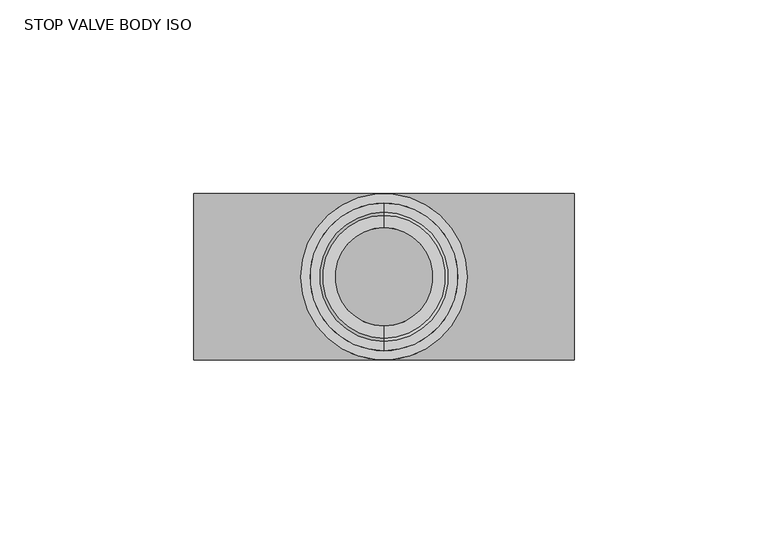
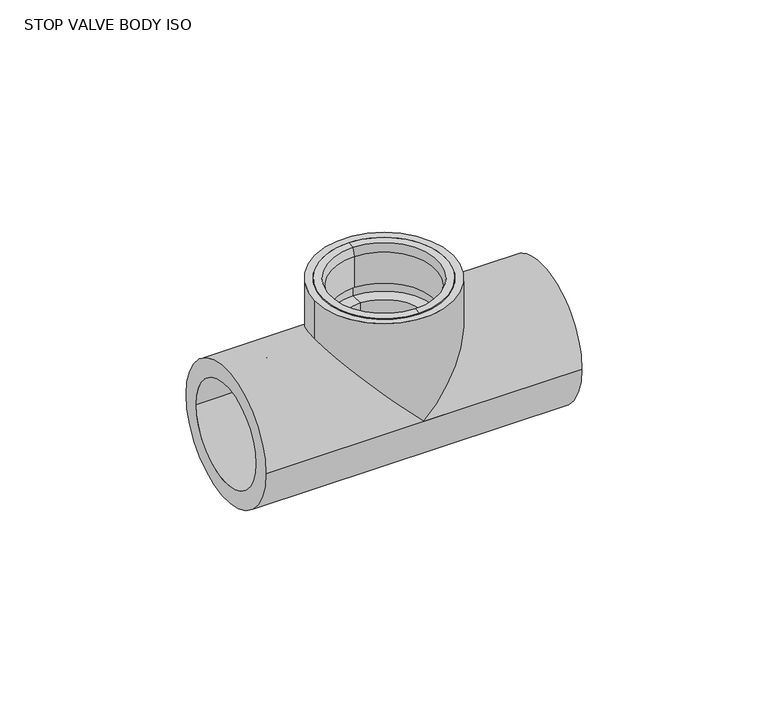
"""IFC4 building model written with IfcOpenShell, lengths in millimetres: valve geometry, Aquatherm - Stop Valve Body ISO : STOP VALVE BODY ISO."""

from ifc_helpers import new_model, si_unit, frame, origin, origin_with_axes, place, context, project, spatial, polyline, circle_curve, ellipse_curve, source, transform, mapped, element, save
from ifc_brep_helpers import plane_surface, cylinder_surface, revolved_surface, advanced_brep


def stop_valve_body_iso_d4252a7b(model_context):
    return source(origin(), model_context, "Body", "AdvancedBrep", [
        advanced_brep(
        [(0.0, -15.875, 21.336), (0.0, 15.875, 21.336), (0.0, 15.875, 31.4563125), (0.0, -15.875, 31.4563125), (0.0, -16.66875, 21.336), (0.0, 16.66875, 21.336), (0.0, -16.66875, 18.161), (0.0, 16.66875, 18.161), (0.0, -12.7, 18.161), (0.0, 12.7, 18.161), (0.0, -12.7, 11.9102187), (0.0, 12.7, 11.9102187), (0.0, -19.05, 11.9102187), (0.0, 19.05, 11.9102187), (0.0, -19.05, 34.036), (0.0, 19.05, 34.036), (0.0, -16.66875, 34.036), (0.0, 16.66875, 34.036)],
        [
            (0, 1, circle_curve(frame((0.0, 0.0, 21.336), z_axis=(0.0, 0.0, -1.0), x_axis=(0.0, 1.0, 0.0)), 15.875)),
            (1, 2),
            (2, 3, circle_curve(frame((0.0, 0.0, 31.4563125), z_axis=(0.0, 0.0, 1.0), x_axis=(0.0, 1.0, 0.0)), 15.875)),
            (3, 0),
            (1, 0, circle_curve(frame((0.0, 0.0, 21.336), z_axis=(0.0, 0.0, -1.0), x_axis=(0.0, 1.0, 0.0)), 15.875)),
            (3, 2, circle_curve(frame((0.0, 0.0, 31.4563125), z_axis=(0.0, 0.0, 1.0), x_axis=(0.0, 1.0, 0.0)), 15.875)),
            (4, 5, circle_curve(frame((0.0, 0.0, 21.336), z_axis=(0.0, 0.0, -1.0), x_axis=(0.0, 1.0, 0.0)), 16.66875)),
            (5, 1),
            (0, 4),
            (5, 4, circle_curve(frame((0.0, 0.0, 21.336), z_axis=(0.0, 0.0, -1.0), x_axis=(0.0, 1.0, 0.0)), 16.66875)),
            (6, 7, circle_curve(frame((0.0, 0.0, 18.161), z_axis=(0.0, 0.0, -1.0), x_axis=(0.0, 1.0, 0.0)), 16.66875)),
            (7, 5),
            (4, 6),
            (7, 6, circle_curve(frame((0.0, 0.0, 18.161), z_axis=(0.0, 0.0, -1.0), x_axis=(0.0, 1.0, 0.0)), 16.66875)),
            (8, 9, circle_curve(frame((0.0, 0.0, 18.161), z_axis=(0.0, 0.0, -1.0), x_axis=(0.0, 1.0, 0.0)), 12.7)),
            (9, 7),
            (6, 8),
            (9, 8, circle_curve(frame((0.0, 0.0, 18.161), z_axis=(0.0, 0.0, -1.0), x_axis=(0.0, 1.0, 0.0)), 12.7)),
            (10, 11, circle_curve(frame((0.0, 0.0, 11.9102187), z_axis=(0.0, 0.0, -1.0), x_axis=(0.0, 1.0, 0.0)), 12.7)),
            (11, 9),
            (8, 10),
            (11, 10, circle_curve(frame((0.0, 0.0, 11.9102187), z_axis=(0.0, 0.0, -1.0), x_axis=(0.0, 1.0, 0.0)), 12.7)),
            (12, 13, circle_curve(frame((0.0, 0.0, 11.9102187), z_axis=(0.0, 0.0, -1.0), x_axis=(0.0, 1.0, 0.0)), 19.05)),
            (13, 11),
            (10, 12),
            (13, 12, circle_curve(frame((0.0, 0.0, 11.9102187), z_axis=(0.0, 0.0, -1.0), x_axis=(0.0, 1.0, 0.0)), 19.05)),
            (14, 15, circle_curve(frame((0.0, 0.0, 34.036), z_axis=(0.0, 0.0, -1.0), x_axis=(0.0, 1.0, 0.0)), 19.05)),
            (15, 13),
            (12, 14),
            (15, 14, circle_curve(frame((0.0, 0.0, 34.036), z_axis=(0.0, 0.0, -1.0), x_axis=(0.0, 1.0, 0.0)), 19.05)),
            (16, 17, circle_curve(frame((0.0, 0.0, 34.036), z_axis=(0.0, 0.0, -1.0), x_axis=(0.0, 1.0, 0.0)), 16.66875)),
            (17, 15),
            (14, 16),
            (17, 16, circle_curve(frame((0.0, 0.0, 34.036), z_axis=(0.0, 0.0, -1.0), x_axis=(0.0, 1.0, 0.0)), 16.66875)),
            (2, 17),
            (16, 3),
        ],
        [
            revolved_surface(polyline([(0.0, 15.875, 31.4563125), (0.0, 15.875, 21.336)]), (0.0, 0.0, 35.8692251), (0.0, 0.0, 1.0)),
            plane_surface(frame((0.0, 0.0, 21.336), z_axis=(0.0, 0.0, -1.0), x_axis=(0.0, 1.0, 0.0))),
            revolved_surface(polyline([(0.0, 16.66875, 21.336), (0.0, 16.66875, 18.161)]), (0.0, 0.0, 35.8692251), (0.0, 0.0, 1.0)),
            plane_surface(frame((0.0, 0.0, 18.161), z_axis=(0.0, 0.0, 1.0), x_axis=(0.0, 1.0, 0.0))),
            revolved_surface(polyline([(0.0, 12.7, 18.161), (0.0, 12.7, 11.910218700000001)]), (0.0, 0.0, 35.8692251), (0.0, 0.0, 1.0)),
            plane_surface(frame((0.0, 0.0, 11.9102187), z_axis=(0.0, 0.0, -1.0), x_axis=(0.0, 1.0, 0.0))),
            cylinder_surface(frame((0.0, 0.0, 35.8692251), z_axis=(0.0, 0.0, 1.0), x_axis=(0.0, 1.0, 0.0)), 19.05),
            plane_surface(frame((0.0, 0.0, 34.036), z_axis=(0.0, 0.0, 1.0), x_axis=(0.0, 1.0, 0.0))),
            revolved_surface(polyline([(0.0, 16.66875, 34.036), (0.0, 15.875, 31.4563125)]), (0.0, 0.0, 35.8692251), (0.0, 0.0, 1.0)),
        ],
        [
            (0, [[1, 2, 3, 4]]),
            (0, [[5, -4, 6, -2]]),
            (1, [[7, 8, -1, 9]]),
            (1, [[10, -9, -5, -8]]),
            (2, [[11, 12, -7, 13]]),
            (2, [[14, -13, -10, -12]]),
            (3, [[15, 16, -11, 17]]),
            (3, [[18, -17, -14, -16]]),
            (4, [[19, 20, -15, 21]]),
            (4, [[22, -21, -18, -20]]),
            (5, [[23, 24, -19, 25]]),
            (5, [[26, -25, -22, -24]]),
            (6, [[27, 28, -23, 29]]),
            (6, [[30, -29, -26, -28]]),
            (7, [[31, 32, -27, 33]]),
            (7, [[34, -33, -30, -32]]),
            (8, [[-3, 35, -31, 36]]),
            (8, [[-6, -36, -34, -35]]),
        ],
    ),
        advanced_brep(
        [(-49.022, -21.463, 0.0), (-49.022, 21.463, 0.0), (-49.022, -16.002, 0.0), (-49.022, 16.002, 0.0), (49.022, -21.463, 0.0), (49.022, 21.463, 0.0), (49.022, 16.002, 0.0), (49.022, -16.002, 0.0), (0.0, -21.463, 0.0), (-21.463, 0.0, 21.463), (0.0, 21.463, 0.0), (21.463, 0.0, 21.463), (-21.463, 0.0, 34.036), (21.463, 0.0, 34.036), (19.05, 0.0, 34.036), (-19.05, 0.0, 34.036), (-19.05, 0.0, 14.986), (19.05, 0.0, 14.986), (12.7, 0.0, 14.986), (-12.7, 0.0, 14.986), (30.988, -16.002, 0.0), (30.988, 16.002, 0.0), (30.988, 12.7, 0.0), (30.988, -12.7, 0.0), (0.0, 12.7, 0.0), (-30.988, 12.7, 0.0), (-30.988, -12.7, 0.0), (0.0, -12.7, 0.0), (12.7, 0.0, 12.7), (-12.7, 0.0, 12.7), (-30.988, 16.002, 0.0), (-30.988, -16.002, 0.0)],
        [
            (0, 1, circle_curve(frame((-49.022, 0.0, 0.0), z_axis=(-1.0, 0.0, 0.0), x_axis=(0.0, 1.0, 0.0)), 21.463)),
            (1, 0, circle_curve(frame((-49.022, 0.0, 0.0), z_axis=(-1.0, 0.0, 0.0), x_axis=(0.0, 1.0, 0.0)), 21.463)),
            (2, 3, circle_curve(frame((-49.022, 0.0, 0.0), z_axis=(1.0, 0.0, 0.0), x_axis=(0.0, 1.0, 0.0)), 16.002)),
            (3, 2, circle_curve(frame((-49.022, 0.0, 0.0), z_axis=(1.0, 0.0, 0.0), x_axis=(0.0, 1.0, 0.0)), 16.002)),
            (4, 5, circle_curve(frame((49.022, 0.0, 0.0), z_axis=(1.0, 0.0, 0.0), x_axis=(0.0, 1.0, 0.0)), 21.463)),
            (5, 4, circle_curve(frame((49.022, 0.0, 0.0), z_axis=(1.0, 0.0, 0.0), x_axis=(0.0, 1.0, 0.0)), 21.463)),
            (6, 7, circle_curve(frame((49.022, 0.0, 0.0), z_axis=(-1.0, 0.0, 0.0), x_axis=(0.0, 1.0, 0.0)), 16.002)),
            (7, 6, circle_curve(frame((49.022, 0.0, 0.0), z_axis=(-1.0, 0.0, 0.0), x_axis=(0.0, 1.0, 0.0)), 16.002)),
            (0, 8),
            (8, 9, ellipse_curve(frame((0.0, 0.0, 0.0), z_axis=(-0.7071067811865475, 0.0, -0.7071067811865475), x_axis=(-0.7071067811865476, 0.0, 0.7071067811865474)), 30.3532657, 21.463)),
            (9, 10, ellipse_curve(frame((0.0, 0.0, 0.0), z_axis=(-0.7071067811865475, 0.0, -0.7071067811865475), x_axis=(-0.7071067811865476, 0.0, 0.7071067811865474)), 30.3532657, 21.463)),
            (10, 1),
            (5, 10),
            (10, 11, ellipse_curve(frame((0.0, 0.0, 0.0), z_axis=(0.7071067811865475, 0.0, -0.7071067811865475), x_axis=(-0.7071067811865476, 0.0, -0.7071067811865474)), 30.3532657, 21.463)),
            (11, 8, ellipse_curve(frame((0.0, 0.0, 0.0), z_axis=(0.7071067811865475, 0.0, -0.7071067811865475), x_axis=(-0.7071067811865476, 0.0, -0.7071067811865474)), 30.3532657, 21.463)),
            (8, 4),
            (12, 13, circle_curve(frame((0.0, 0.0, 34.036), z_axis=(0.0, 0.0, 1.0), x_axis=(1.0, 0.0, 0.0)), 21.463)),
            (13, 12, circle_curve(frame((0.0, 0.0, 34.036), z_axis=(0.0, 0.0, 1.0), x_axis=(1.0, 0.0, 0.0)), 21.463)),
            (14, 15, circle_curve(frame((0.0, 0.0, 34.036), z_axis=(0.0, 0.0, -1.0), x_axis=(1.0, 0.0, 0.0)), 19.05)),
            (15, 14, circle_curve(frame((0.0, 0.0, 34.036), z_axis=(0.0, 0.0, -1.0), x_axis=(1.0, 0.0, 0.0)), 19.05)),
            (12, 9),
            (11, 13),
            (16, 17, circle_curve(frame((0.0, 0.0, 14.986), z_axis=(0.0, 0.0, 1.0), x_axis=(1.0, 0.0, 0.0)), 19.05)),
            (17, 16, circle_curve(frame((0.0, 0.0, 14.986), z_axis=(0.0, 0.0, 1.0), x_axis=(1.0, 0.0, 0.0)), 19.05)),
            (18, 19, circle_curve(frame((0.0, 0.0, 14.986), z_axis=(0.0, 0.0, -1.0), x_axis=(1.0, 0.0, 0.0)), 12.7)),
            (19, 18, circle_curve(frame((0.0, 0.0, 14.986), z_axis=(0.0, 0.0, -1.0), x_axis=(1.0, 0.0, 0.0)), 12.7)),
            (16, 15),
            (14, 17),
            (20, 7),
            (6, 21),
            (21, 20, circle_curve(frame((30.988, 0.0, 0.0), z_axis=(-1.0, 0.0, 0.0), x_axis=(0.0, 1.0, 0.0)), 16.002)),
            (20, 21, circle_curve(frame((30.988, 0.0, 0.0), z_axis=(-1.0, 0.0, 0.0), x_axis=(0.0, 1.0, 0.0)), 16.002)),
            (21, 22),
            (22, 23, circle_curve(frame((30.988, 0.0, 0.0), z_axis=(-1.0, 0.0, 0.0), x_axis=(0.0, 1.0, 0.0)), 12.7)),
            (23, 20),
            (23, 22, circle_curve(frame((30.988, 0.0, 0.0), z_axis=(-1.0, 0.0, 0.0), x_axis=(0.0, 1.0, 0.0)), 12.7)),
            (22, 24),
            (24, 25),
            (25, 26, circle_curve(frame((-30.988, 0.0, 0.0), z_axis=(-1.0, 0.0, 0.0), x_axis=(0.0, 1.0, 0.0)), 12.7)),
            (26, 27),
            (27, 23),
            (27, 28, ellipse_curve(frame((0.0, 0.0, 0.0), z_axis=(-0.7071067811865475, 0.0, 0.7071067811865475), x_axis=(-0.7071067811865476, 0.0, -0.7071067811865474)), 17.9605122, 12.7)),
            (28, 24, ellipse_curve(frame((0.0, 0.0, 0.0), z_axis=(-0.7071067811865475, 0.0, 0.7071067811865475), x_axis=(-0.7071067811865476, 0.0, -0.7071067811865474)), 17.9605122, 12.7)),
            (26, 25, circle_curve(frame((-30.988, 0.0, 0.0), z_axis=(-1.0, 0.0, 0.0), x_axis=(0.0, 1.0, 0.0)), 12.7)),
            (24, 29, ellipse_curve(frame((0.0, 0.0, 0.0), z_axis=(0.7071067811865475, 0.0, 0.7071067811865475), x_axis=(-0.7071067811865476, 0.0, 0.7071067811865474)), 17.9605122, 12.7)),
            (29, 27, ellipse_curve(frame((0.0, 0.0, 0.0), z_axis=(0.7071067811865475, 0.0, 0.7071067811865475), x_axis=(-0.7071067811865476, 0.0, 0.7071067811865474)), 17.9605122, 12.7)),
            (25, 30),
            (30, 31, circle_curve(frame((-30.988, 0.0, 0.0), z_axis=(-1.0, 0.0, 0.0), x_axis=(0.0, 1.0, 0.0)), 16.002)),
            (31, 26),
            (31, 30, circle_curve(frame((-30.988, 0.0, 0.0), z_axis=(-1.0, 0.0, 0.0), x_axis=(0.0, 1.0, 0.0)), 16.002)),
            (30, 3),
            (2, 31),
            (29, 19),
            (18, 28),
        ],
        [
            plane_surface(frame((-49.022, 0.0, 0.0), z_axis=(-1.0, 0.0, 0.0), x_axis=(0.0, 0.0, 1.0))),
            plane_surface(frame((49.022, 0.0, 0.0), z_axis=(1.0, 0.0, 0.0), x_axis=(0.0, 0.0, 1.0))),
            cylinder_surface(frame((-49.022, 0.0, 0.0), z_axis=(-1.0, 0.0, 0.0), x_axis=(0.0, 1.0, 0.0)), 21.463),
            plane_surface(frame((21.463, 0.0, 34.036), z_axis=(0.0, 0.0, 1.0), x_axis=(0.0, 1.0, 0.0))),
            cylinder_surface(origin_with_axes(), 21.463),
            plane_surface(frame((19.05, 0.0, 14.986), z_axis=(0.0, 0.0, 1.0), x_axis=(0.0, -1.0, 0.0))),
            revolved_surface(polyline([(19.05, 0.0, 34.036), (19.05, 0.0, 14.986)]), (0.0, 0.0, 14.986), (0.0, 0.0, 1.0)),
            revolved_surface(polyline([(30.988, 16.002, 0.0), (49.022000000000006, 16.002, 0.0)]), (-93.472, 0.0, 0.0), (-1.0, 0.0, 0.0)),
            plane_surface(frame((30.988, 0.0, 0.0), z_axis=(1.0, 0.0, 0.0), x_axis=(0.0, 1.0, 0.0))),
            revolved_surface(polyline([(-30.988, 12.7, 0.0), (30.988, 12.7, 0.0)]), (-93.472, 0.0, 0.0), (-1.0, 0.0, 0.0)),
            revolved_surface(polyline([(-12.69999997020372, 12.7, 0.0), (30.988, 12.7, 0.0)]), (-93.472, 0.0, 0.0), (-1.0, 0.0, 0.0)),
            revolved_surface(polyline([(-30.988, 12.7, 0.0), (12.69999997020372, 12.7, 0.0)]), (-93.472, 0.0, 0.0), (-1.0, 0.0, 0.0)),
            plane_surface(frame((-30.988, 0.0, 0.0), z_axis=(-1.0, 0.0, 0.0), x_axis=(0.0, 1.0, 0.0))),
            revolved_surface(polyline([(-49.022, 16.002, 0.0), (-30.988, 16.002, 0.0)]), (-93.472, 0.0, 0.0), (-1.0, 0.0, 0.0)),
            revolved_surface(polyline([(12.7, 0.0, 14.986), (12.7, 0.0, -12.699999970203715)]), (0.0, 0.0, 0.0), (0.0, 0.0, 1.0)),
        ],
        [
            (0, [[1, 2], [3, 4]]),
            (1, [[5, 6], [7, 8]]),
            (2, [[-1, 9, 10, 11, 12]]),
            (2, [[-6, 13, 14, 15, 16]]),
            (2, [[-2, -12, -13, -5, -16, -9]]),
            (3, [[17, 18], [19, 20]]),
            (4, [[-17, 21, -10, -15, 22]]),
            (4, [[-18, -22, -14, -11, -21]]),
            (5, [[23, 24], [25, 26]]),
            (6, [[-23, 27, -19, 28]]),
            (6, [[-24, -28, -20, -27]]),
            (7, [[29, -7, 30, 31]]),
            (7, [[-29, 32, -30, -8]]),
            (8, [[-31, 33, 34, 35]]),
            (8, [[-32, -35, 36, -33]]),
            (9, [[-34, 37, 38, 39, 40, 41]]),
            (10, [[-36, -41, 42, 43, -37]]),
            (11, [[44, -38, 45, 46, -40]]),
            (12, [[-39, 47, 48, 49]]),
            (12, [[-44, -49, 50, -47]]),
            (13, [[-48, 51, -3, 52]]),
            (13, [[-50, -52, -4, -51]]),
            (14, [[53, -25, 54, -42, -46]]),
            (14, [[-53, -45, -43, -54, -26]]),
        ],
    ),
    ])


if __name__ == "__main__":
    model = new_model("IFC4")
    model_context = context("Model", 3, world=origin())
    ifc_project = project(units=[si_unit("LENGTHUNIT", "METRE", prefix="MILLI")], contexts=[model_context])
    site = spatial("IfcSite", under=ifc_project)
    building = spatial("IfcBuilding", under=site)
    placement = place(None, origin())
    stop_valve_body_iso_shape = stop_valve_body_iso_d4252a7b(model_context)
    element("IfcValve", 1, ObjectType="Aquatherm - Stop Valve Body ISO : STOP VALVE BODY ISO", at=placement, inside=building, context=model_context, shape_type="MappedRepresentation", body=[
        mapped(stop_valve_body_iso_shape, transform((0.0, 0.0, 0.0), x_axis=(1.0, 0.0, 0.0), y_axis=(0.0, 1.0, 0.0), z_axis=(0.0, 0.0, 1.0))),
    ])
    save(model, "model.ifc")
